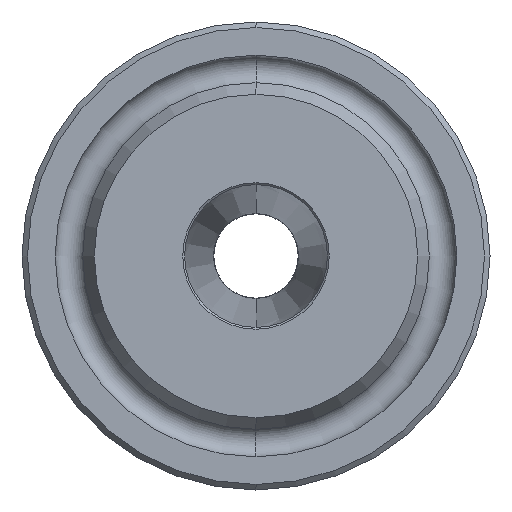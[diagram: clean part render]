
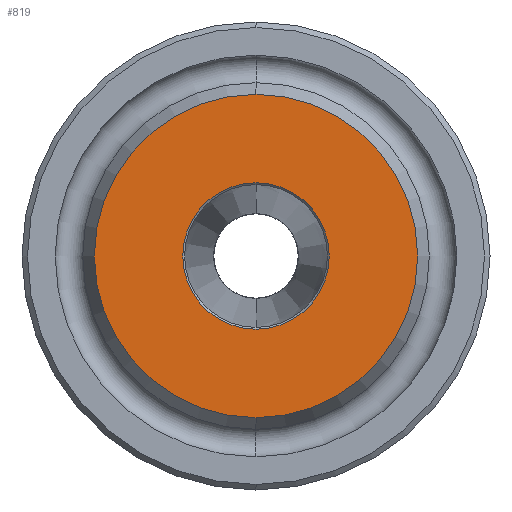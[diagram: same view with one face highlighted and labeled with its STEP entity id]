
A CAD part, left-side view. The second image highlights one B-rep face of the part: STEP entity #819.
In plain terms, the highlighted planar face has unit normal (-1, 0, 0).
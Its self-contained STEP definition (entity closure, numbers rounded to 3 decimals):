
#36 = DIRECTION ( 'NONE',  ( -1., 0., 0. ) ) ;
#39 = CARTESIAN_POINT ( 'NONE',  ( -32.537, 0., 0. ) ) ;
#41 = CARTESIAN_POINT ( 'NONE',  ( -32.537, 8.772, 0. ) ) ;
#56 = DIRECTION ( 'NONE',  ( 0., 0., 1. ) ) ;
#80 = EDGE_CURVE ( 'NONE', #1245, #1207, #654, .T. ) ;
#109 = DIRECTION ( 'NONE',  ( -1., 0., 0. ) ) ;
#112 = AXIS2_PLACEMENT_3D ( 'NONE', #921, #933, #928 ) ;
#113 = DIRECTION ( 'NONE',  ( 0., 0., 1. ) ) ;
#187 = AXIS2_PLACEMENT_3D ( 'NONE', #1134, #1032, #1114 ) ;
#245 = FACE_OUTER_BOUND ( 'NONE', #886, .T. ) ;
#288 = EDGE_LOOP ( 'NONE', ( #1140, #1079 ) ) ;
#300 = CARTESIAN_POINT ( 'NONE',  ( -32.537, 0., 0. ) ) ;
#362 = CARTESIAN_POINT ( 'NONE',  ( -32.537, 0., 8.772 ) ) ;
#472 = DIRECTION ( 'NONE',  ( -1., 0., 0. ) ) ;
#504 = DIRECTION ( 'NONE',  ( 0., 0., 1. ) ) ;
#529 = EDGE_CURVE ( 'NONE', #1207, #1245, #1187, .T. ) ;
#541 = EDGE_CURVE ( 'NONE', #1424, #1007, #605, .T. ) ;
#549 = FACE_BOUND ( 'NONE', #288, .T. ) ;
#605 = CIRCLE ( 'NONE', #187, 3.975 ) ;
#617 = AXIS2_PLACEMENT_3D ( 'NONE', #41, #472, #504 ) ;
#638 = PLANE ( 'NONE',  #617 ) ;
#654 = CIRCLE ( 'NONE', #960, 8.772 ) ;
#749 = CARTESIAN_POINT ( 'NONE',  ( -32.537, 0., -8.772 ) ) ;
#765 = CIRCLE ( 'NONE', #1252, 3.975 ) ;
#819 = ADVANCED_FACE ( 'NONE', ( #245, #549 ), #638, .T. ) ;
#886 = EDGE_LOOP ( 'NONE', ( #1108, #1123 ) ) ;
#921 = CARTESIAN_POINT ( 'NONE',  ( -32.537, 0., 0. ) ) ;
#928 = DIRECTION ( 'NONE',  ( 0., 0., 1. ) ) ;
#933 = DIRECTION ( 'NONE',  ( -1., 0., 0. ) ) ;
#960 = AXIS2_PLACEMENT_3D ( 'NONE', #300, #36, #56 ) ;
#1007 = VERTEX_POINT ( 'NONE', #1353 ) ;
#1032 = DIRECTION ( 'NONE',  ( -1., 0., 0. ) ) ;
#1079 = ORIENTED_EDGE ( 'NONE', *, *, #1148, .F. ) ;
#1085 = CARTESIAN_POINT ( 'NONE',  ( -32.537, 0., 3.975 ) ) ;
#1108 = ORIENTED_EDGE ( 'NONE', *, *, #80, .T. ) ;
#1114 = DIRECTION ( 'NONE',  ( 0., 0., 1. ) ) ;
#1123 = ORIENTED_EDGE ( 'NONE', *, *, #529, .T. ) ;
#1134 = CARTESIAN_POINT ( 'NONE',  ( -32.537, 0., 0. ) ) ;
#1140 = ORIENTED_EDGE ( 'NONE', *, *, #541, .F. ) ;
#1148 = EDGE_CURVE ( 'NONE', #1007, #1424, #765, .T. ) ;
#1187 = CIRCLE ( 'NONE', #112, 8.772 ) ;
#1207 = VERTEX_POINT ( 'NONE', #362 ) ;
#1245 = VERTEX_POINT ( 'NONE', #749 ) ;
#1252 = AXIS2_PLACEMENT_3D ( 'NONE', #39, #109, #113 ) ;
#1353 = CARTESIAN_POINT ( 'NONE',  ( -32.537, 0., -3.975 ) ) ;
#1424 = VERTEX_POINT ( 'NONE', #1085 ) ;
